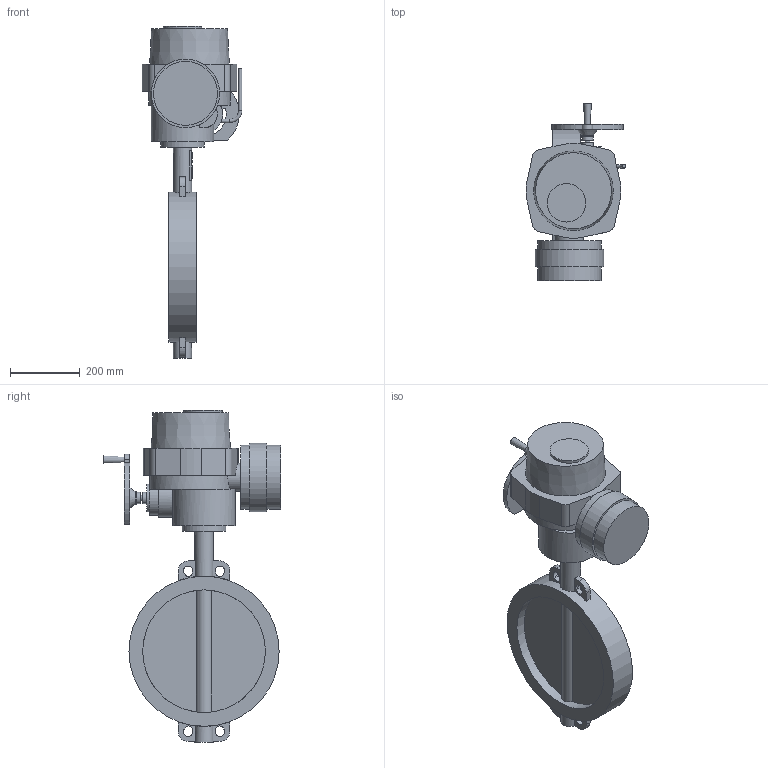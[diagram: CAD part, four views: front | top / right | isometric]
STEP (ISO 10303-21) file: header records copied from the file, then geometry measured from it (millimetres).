
FILE_DESCRIPTION(('STEP AP203'), '1');
FILE_NAME('青蜮铕 017W.ZS DN350+菹 QT.A120', '', ('UNSPECIFIED'), ('UNSPECIFIED'), 'ASCON STEP Converter 1.6', 'ASCON Math Kernel', '');
FILE_SCHEMA(('CONFIG_CONTROL_DESIGN'));
Length unit declared in the file: millimetre
Bounding box: 285.64 x 509 x 951 mm (x, y, z)
Volume: 17847083.1 mm3; surface area: 1143803.2 mm2
Topology: 1 solids, 2 shells, 906 faces, 2631 edges, 1698 vertices
Faces by surface type: cylinder 664, plane 238, cone 3, torus 1
Full cylindrical faces by diameter (mm): 10 x6, 12 x4, 14 x4, 16 x1, 31.6 x1, 32 x2, 35 x2, 52 x2, 70 x1, 80 x2, 100 x1, 110 x1, 125 x1, 180 x1, 183 x2, 196 x1, 351.5 x2, 430 x1
Entity records: 38923 total; most frequent: CARTESIAN_POINT 6520, DIRECTION 5799, ORIENTED_EDGE 5108, EDGE_CURVE 2593, AXIS2_PLACEMENT_3D 2323, VERTEX_POINT 1698, CIRCLE 1416, LINE 1153
